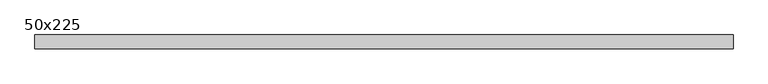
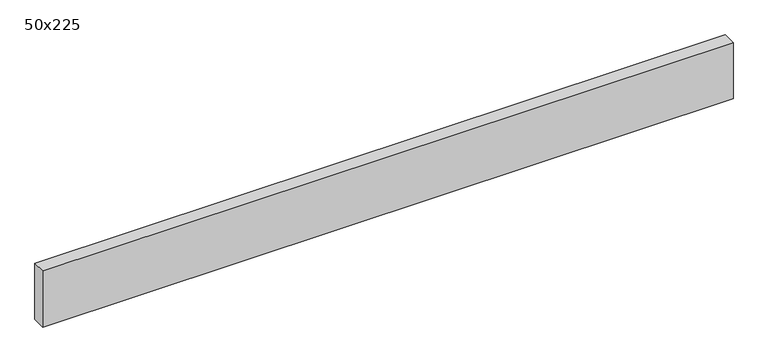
"""IFC4 building model written with IfcOpenShell, lengths in millimetres: beam geometry, Graded Timber : 50x225."""

from ifc_helpers import new_model, si_unit, frame, origin, place, context, project, spatial, polyline, outline, extrude, source, transform, mapped, element, save


def beam_50x225_0b1a1439(model_context):
    return source(origin(), model_context, "Body", "SweptSolid", [
        extrude(outline(polyline([(1276.0, 25.0), (1276.0, -25.0), (-1276.0, -25.0), (-1276.0, 25.0), (1276.0, 25.0)])), frame((0.0, 0.0, -110.0), z_axis=(0.0, 0.0, 1.0), x_axis=(1.0, 0.0, 0.0)), (0.0, 0.0, 1.0), 220.0),
    ])


if __name__ == "__main__":
    model = new_model("IFC4")
    model_context = context("Model", 3, world=origin())
    ifc_project = project(units=[si_unit("LENGTHUNIT", "METRE", prefix="MILLI")], contexts=[model_context])
    site = spatial("IfcSite", under=ifc_project)
    building = spatial("IfcBuilding", under=site)
    placement = place(None, origin())
    beam_50x225_shape = beam_50x225_0b1a1439(model_context)
    element("IfcBeam", 1, ObjectType="Graded Timber : 50x225", at=placement, inside=building, context=model_context, shape_type="MappedRepresentation", body=[
        mapped(beam_50x225_shape, transform((0.0, 0.0, 0.0), x_axis=(1.0, 0.0, 0.0), y_axis=(0.0, 1.0, 0.0), z_axis=(0.0, 0.0, 1.0))),
    ])
    save(model, "model.ifc")
